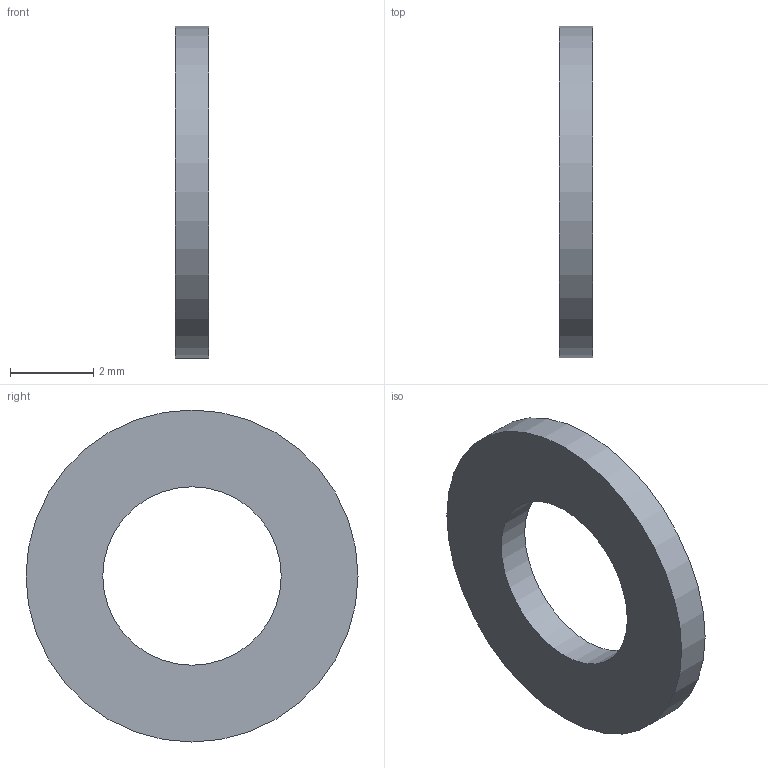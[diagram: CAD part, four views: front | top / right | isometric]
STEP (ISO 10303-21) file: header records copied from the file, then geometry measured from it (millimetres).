
FILE_DESCRIPTION(/* description */ ('평면 와셔'),/* implementation_level */ '2;1');
FILE_NAME(/* name */ '',/* time_stamp */ '2026-03-26T11:14:40+09:00',/* author */ ('jhkim'),/* organization */ (''),/* preprocessor_version */ 'ST-DEVELOPER v20.1',/* originating_system */ 'Autodesk Inventor 2026',/* authorisation */ '');
FILE_SCHEMA (('AUTOMOTIVE_DESIGN { 1 0 10303 214 3 1 1 }'));
Length unit declared in the file: millimetre
Products named in the file (1): 평 와셔 M4
Bounding box: 0.8 x 8 x 8 mm (x, y, z)
Volume: 28.6 mm3; surface area: 102.4 mm2
Topology: 1 solids, 1 shells, 4 faces, 6 edges, 4 vertices
Faces by surface type: cylinder 2, plane 2
Full cylindrical faces by diameter (mm): 4.3 x1, 8 x1
Entity records: 141 total; most frequent: DIRECTION 20, CARTESIAN_POINT 15, ORIENTED_EDGE 12, AXIS2_PLACEMENT_3D 9, EDGE_LOOP 6, EDGE_CURVE 6, FACE_OUTER_BOUND 4, CIRCLE 4
